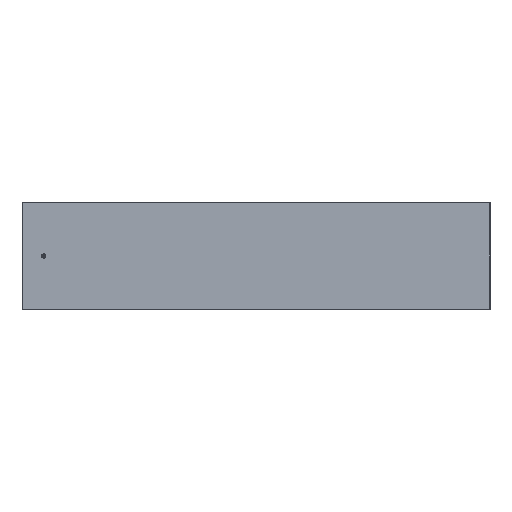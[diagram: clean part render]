
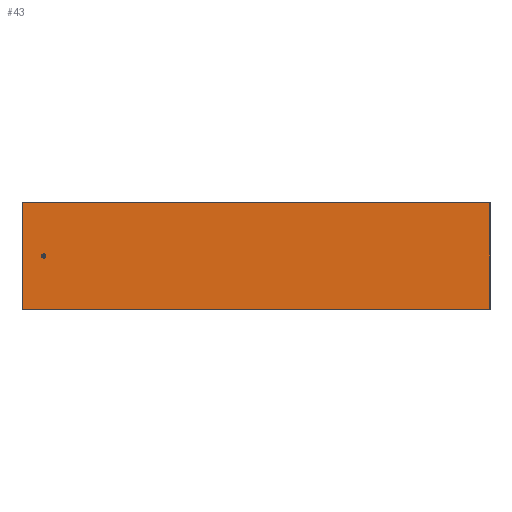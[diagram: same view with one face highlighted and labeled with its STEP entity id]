
A CAD part, front view. The second image highlights one B-rep face of the part: STEP entity #43.
In plain terms, the highlighted planar face has unit normal (0, -1, 0).
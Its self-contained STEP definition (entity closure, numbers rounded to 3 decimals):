
#43 = ADVANCED_FACE( '', ( #98, #99 ), #100, .F. );
#98 = FACE_BOUND( '', #171, .T. );
#99 = FACE_OUTER_BOUND( '', #172, .T. );
#100 = PLANE( '', #173 );
#171 = EDGE_LOOP( '', ( #238 ) );
#172 = EDGE_LOOP( '', ( #239, #240, #241, #242 ) );
#173 = AXIS2_PLACEMENT_3D( '', #243, #244, #245 );
#238 = ORIENTED_EDGE( '', *, *, #378, .F. );
#239 = ORIENTED_EDGE( '', *, *, #379, .T. );
#240 = ORIENTED_EDGE( '', *, *, #380, .T. );
#241 = ORIENTED_EDGE( '', *, *, #381, .F. );
#242 = ORIENTED_EDGE( '', *, *, #382, .F. );
#243 = CARTESIAN_POINT( '', ( -797.5, 56.5, 184. ) );
#244 = DIRECTION( '', ( 0., 1., 0. ) );
#245 = DIRECTION( '', ( 0., 0., 1. ) );
#378 = EDGE_CURVE( '', #429, #429, #430, .F. );
#379 = EDGE_CURVE( '', #431, #432, #433, .T. );
#380 = EDGE_CURVE( '', #432, #434, #435, .T. );
#381 = EDGE_CURVE( '', #436, #434, #437, .T. );
#382 = EDGE_CURVE( '', #431, #436, #438, .T. );
#429 = VERTEX_POINT( '', #504 );
#430 = CIRCLE( '', #505, 4.5 );
#431 = VERTEX_POINT( '', #506 );
#432 = VERTEX_POINT( '', #507 );
#433 = LINE( '', #508, #509 );
#434 = VERTEX_POINT( '', #510 );
#435 = LINE( '', #511, #512 );
#436 = VERTEX_POINT( '', #513 );
#437 = LINE( '', #514, #515 );
#438 = LINE( '', #516, #517 );
#504 = CARTESIAN_POINT( '', ( -725., 56.5, 4.5 ) );
#505 = AXIS2_PLACEMENT_3D( '', #602, #603, #604 );
#506 = CARTESIAN_POINT( '', ( 797.5, 56.5, 182.5 ) );
#507 = CARTESIAN_POINT( '', ( -797.5, 56.5, 182.5 ) );
#508 = CARTESIAN_POINT( '', ( 799., 56.5, 182.5 ) );
#509 = VECTOR( '', #605, 1000. );
#510 = CARTESIAN_POINT( '', ( -797.5, 56.5, -182.5 ) );
#511 = CARTESIAN_POINT( '', ( -797.5, 56.5, 184. ) );
#512 = VECTOR( '', #606, 1000. );
#513 = CARTESIAN_POINT( '', ( 797.5, 56.5, -182.5 ) );
#514 = CARTESIAN_POINT( '', ( 799., 56.5, -182.5 ) );
#515 = VECTOR( '', #607, 1000. );
#516 = CARTESIAN_POINT( '', ( 797.5, 56.5, 184. ) );
#517 = VECTOR( '', #608, 1000. );
#602 = CARTESIAN_POINT( '', ( -725., 56.5, 0. ) );
#603 = DIRECTION( '', ( 0., 1., 0. ) );
#604 = DIRECTION( '', ( 0., 0., 1. ) );
#605 = DIRECTION( '', ( -1., 0., 0. ) );
#606 = DIRECTION( '', ( 0., 0., -1. ) );
#607 = DIRECTION( '', ( -1., 0., 0. ) );
#608 = DIRECTION( '', ( 0., 0., -1. ) );
